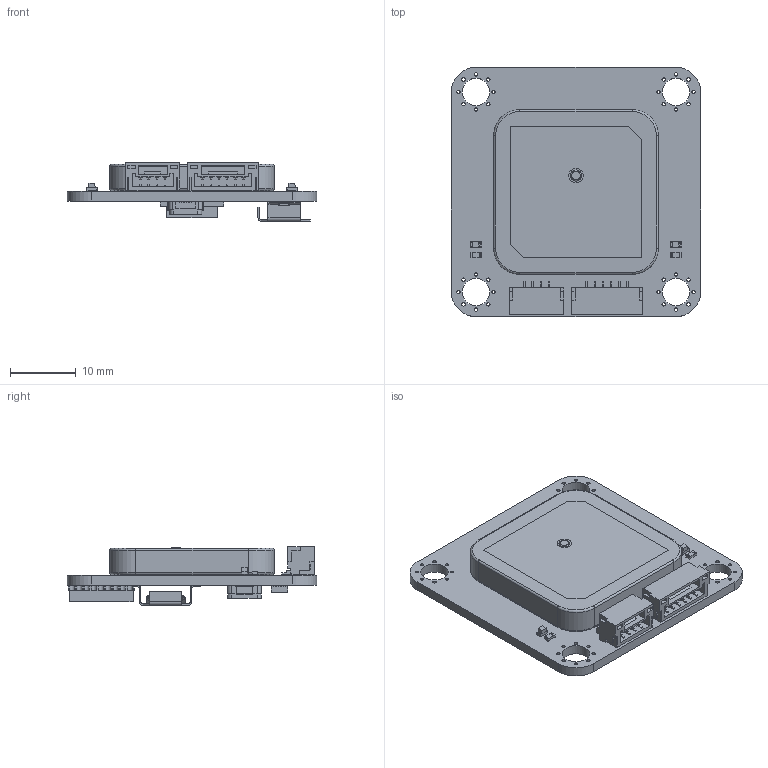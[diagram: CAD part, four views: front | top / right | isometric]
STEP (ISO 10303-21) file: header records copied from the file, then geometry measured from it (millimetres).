
FILE_DESCRIPTION(/* description */ ('KiCad electronic assembly'),/* implementation_level */ '2;1');
FILE_NAME(/* name */ 'Aerium_Polar_public.step',/* time_stamp */ '2025-11-30T13:02:52+02:00',/* author */ (''),/* organization */ (''),/* preprocessor_version */ 'ST-DEVELOPER v20.1',/* originating_system */ 'Autodesk Translation Framework v14.21.0.0',/* authorisation */ '');
FILE_SCHEMA (('AUTOMOTIVE_DESIGN { 1 0 10303 214 3 1 1 }'));
Products named in the file (14): 2025-11-30-11-01-46-341; 2025-11-30-11-01-46-344; 2025-11-30-11-01-46-345; 2025-11-30-11-01-46-346; 2025-11-30-11-01-46-347; 2025-11-30-11-01-46-348; 2025-11-30-11-01-46-349; 2025-11-30-11-01-46-350; 2025-11-30-11-01-46-351; 2025-11-30-11-01-46-352; 2025-11-30-11-01-46-353; 2025-11-30-11-01-46-354; 2025-11-30-11-01-46-342; 2025-11-30-11-01-46-343
Assembly tree (15 placements, depth 3):
  2025-11-30-11-01-46-341
    2025-11-30-11-01-46-342  x2
    2025-11-30-11-01-46-343  x2
    2025-11-30-11-01-46-344
    2025-11-30-11-01-46-345
    2025-11-30-11-01-46-346
    2025-11-30-11-01-46-347
    2025-11-30-11-01-46-348
      2025-11-30-11-01-46-349
      2025-11-30-11-01-46-350
    2025-11-30-11-01-46-351
    2025-11-30-11-01-46-352
    2025-11-30-11-01-46-353
    2025-11-30-11-01-46-354
Bounding box: 38 x 38 x 8.93 mm (x, y, z)
Volume: 4992 mm3; surface area: 7136.5 mm2
Topology: 76 solids, 76 shells, 2436 faces, 6653 edges, 4389 vertices
Faces by surface type: plane 1472, bspline 706, cylinder 220, sphere 24, torus 12, cone 2
Full cylindrical faces by diameter (mm): 0.263 x2, 0.5 x32, 0.9 x2, 0.95 x1, 1.2 x1, 1.458 x2, 1.7 x6, 2.2 x2, 3 x2, 4.2 x4
Entity records: 83571 total; most frequent: CARTESIAN_POINT 26099, ORIENTED_EDGE 12840, DIRECTION 8841, EDGE_CURVE 6420, LINE 4559, VECTOR 4559, VERTEX_POINT 4259, EDGE_LOOP 2529
